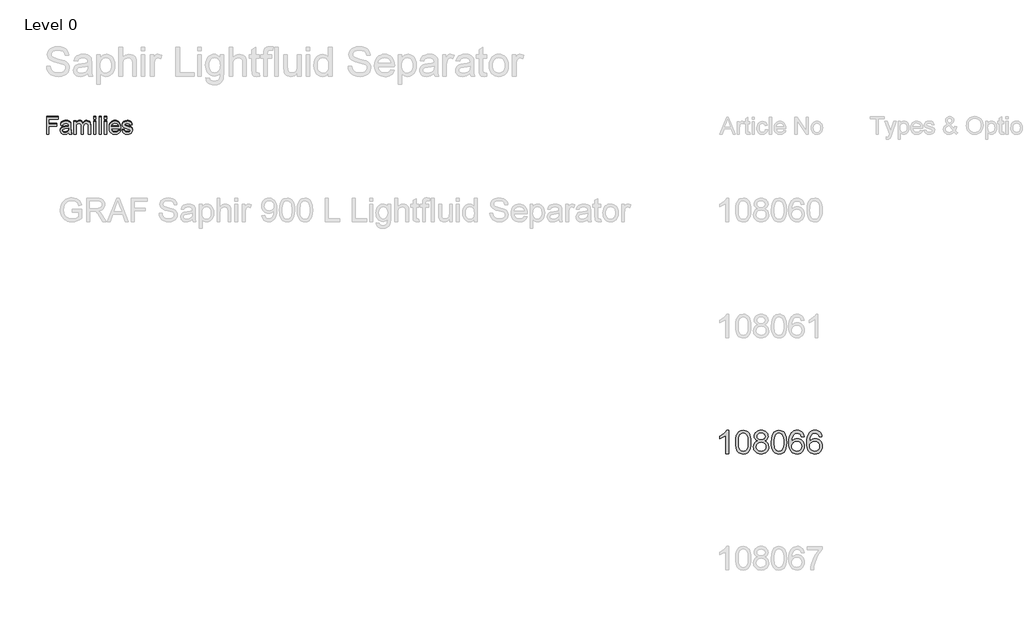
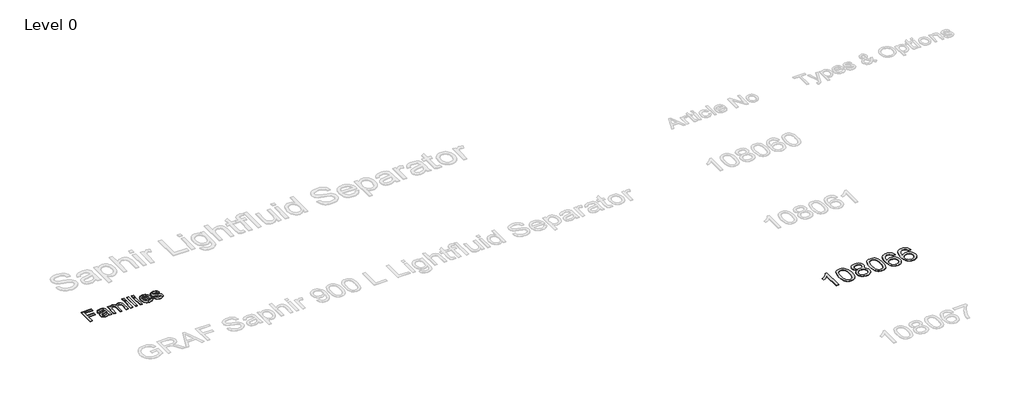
# One storey, part 5 of 9: 3 proxies.
"""IFC4 building model written with IfcOpenShell, lengths in millimetres."""

from ifc_helpers import new_model, si_unit, origin, origin_with_axes, place, context, project, spatial, polyline, outline, extrude, element, save

model = new_model("IFC4")

# Units and contexts
model_context = context("Model", 3, world=origin())
ifc_project = project(units=[si_unit("LENGTHUNIT", "METRE", prefix="MILLI")], contexts=[model_context])

# Site, building, storey
site = spatial("IfcSite", under=ifc_project)
building = spatial("IfcBuilding", under=site)
storey = spatial("IfcBuildingStorey", under=building, Name="Level 0", Elevation=0.0)

# Proxies
placement = place(None, origin())
element("IfcBuildingElementProxy", 1, Name="300mm Arial", ObjectType="300mm Arial", at=placement, inside=storey, context=model_context, shape_type="SweptSolid", body=[
    extrude(outline(polyline([(-15382.9152593, 11653.8274553), (-15382.9152593, 11949.2120707), (-15184.4537209, 11949.2120707), (-15184.4537209, 11912.2889938), (-15345.9921824, 11912.2889938), (-15345.9921824, 11824.5966861), (-15207.530644, 11824.5966861), (-15207.530644, 11787.6736092), (-15345.9921824, 11787.6736092), (-15345.9921824, 11653.8274553), (-15382.9152593, 11653.8274553)])), origin_with_axes(), (0.0, 0.0, 1.0), 10.0),
    extrude(outline(polyline([(-14999.8383363, 11681.519763), (-15017.4795622, 11666.3935611), (-15035.6436247, 11656.4957246), (-15054.7451872, 11651.0329842), (-15075.1989132, 11649.2120707), (-15106.0552834, 11653.5930803), (-15128.8167017, 11666.7361092), (-15142.8521584, 11686.6940419), (-15147.530644, 11711.519763), (-15145.763817, 11726.8262534), (-15140.4633363, 11740.7264938), (-15132.2872545, 11752.6255323), (-15121.8936247, 11761.9284169), (-15096.0402593, 11774.0438015), (-15064.093144, 11779.5966861), (-15026.3407401, 11785.4380323), (-15000.0546824, 11792.2889938), (-14999.8383363, 11800.5101476), (-15002.3804036, 11816.988513), (-15010.0066055, 11827.769763), (-15027.061894, 11835.7745707), (-15050.8239132, 11838.44284), (-15072.8191055, 11836.6669986), (-15088.1796824, 11831.3394746), (-15098.654442, 11821.4867101), (-15105.9921824, 11806.1351476), (-15142.9152593, 11810.7505323), (-15136.5060045, 11830.94284), (-15126.9417017, 11846.8082246), (-15113.3299228, 11858.941638), (-15094.7782401, 11867.9380323), (-15072.0889372, 11873.5089457), (-15046.0642978, 11875.3659169), (-15021.1033603, 11873.7252919), (-15001.3167017, 11868.8034169), (-14986.3978315, 11861.4025755), (-14976.0402593, 11852.3250515), (-14969.171269, 11841.1020948), (-14964.718144, 11827.2649553), (-14962.9152593, 11794.957263), (-14962.9152593, 11749.019763), (-14961.0402593, 11684.8731284), (-14953.6844901, 11653.8274553), (-14990.607567, 11653.8274553), (-14999.8383363, 11681.519763)]), holes=[polyline([(-14999.8383363, 11755.3659169), (-15059.405644, 11744.0438015), (-15091.1724709, 11738.0582246), (-15105.5594901, 11728.3226476), (-15110.607567, 11714.1159169), (-15107.858168, 11703.1363496), (-15099.6099709, 11694.1399553), (-15086.0432642, 11688.1363496), (-15067.3383363, 11686.1351476), (-15047.5066055, 11688.3436813), (-15029.982567, 11694.9692823), (-15015.7758363, 11704.7319025), (-15005.8960286, 11716.3514938), (-15001.515019, 11728.3226476), (-15000.0546824, 11744.9091861), (-14999.8383363, 11755.3659169)])]), origin_with_axes(), (0.0, 0.0, 1.0), 10.0),
    extrude(outline(polyline([(-14912.1460286, 11653.8274553), (-14912.1460286, 11870.7505323), (-14875.2229517, 11870.7505323), (-14875.2229517, 11835.0534169), (-14864.1171824, 11851.4506525), (-14849.8383363, 11864.2962053), (-14832.873192, 11872.598489), (-14813.7085286, 11875.3659169), (-14793.1736728, 11872.5444025), (-14776.7133363, 11864.0798592), (-14764.4176632, 11850.5311813), (-14756.3767978, 11832.457263), (-14742.9182642, 11851.2297991), (-14727.5667017, 11864.6387534), (-14710.3221103, 11872.684126), (-14691.1844901, 11875.3659169), (-14663.4290815, 11870.9037775), (-14642.9032401, 11857.5173592), (-14630.2199468, 11834.8460851), (-14625.9921824, 11802.5293784), (-14625.9921824, 11653.8274553), (-14662.9152593, 11653.8274553), (-14662.9152593, 11786.6639938), (-14666.3407401, 11817.4933207), (-14671.154442, 11825.9939217), (-14678.7445863, 11832.6736092), (-14688.5072065, 11837.0005323), (-14699.8383363, 11838.44284), (-14719.8413411, 11834.7469265), (-14736.1484324, 11823.6591861), (-14746.9927834, 11804.4224073), (-14750.607567, 11776.2793784), (-14750.607567, 11653.8274553), (-14787.530644, 11653.8274553), (-14787.530644, 11790.7745707), (-14789.6670622, 11811.6519746), (-14796.076317, 11826.5438015), (-14807.3533603, 11835.4680803), (-14824.093144, 11838.44284), (-14838.3179036, 11836.4596669), (-14851.4248747, 11830.5101476), (-14862.2421824, 11820.738513), (-14869.5979517, 11807.2889938), (-14873.8167017, 11788.629138), (-14875.2229517, 11763.2264938), (-14875.2229517, 11653.8274553), (-14912.1460286, 11653.8274553)])), origin_with_axes(), (0.0, 0.0, 1.0), 10.0),
    extrude(outline(polyline([(-14570.607567, 11912.2889938), (-14570.607567, 11949.2120707), (-14533.6844901, 11949.2120707), (-14533.6844901, 11912.2889938), (-14570.607567, 11912.2889938)])), origin_with_axes(), (0.0, 0.0, 1.0), 10.0),
    extrude(outline(polyline([(-14570.607567, 11653.8274553), (-14570.607567, 11870.7505323), (-14533.6844901, 11870.7505323), (-14533.6844901, 11653.8274553), (-14570.607567, 11653.8274553)])), origin_with_axes(), (0.0, 0.0, 1.0), 10.0),
    extrude(outline(polyline([(-14478.2998747, 11653.8274553), (-14478.2998747, 11949.2120707), (-14441.3767978, 11949.2120707), (-14441.3767978, 11653.8274553), (-14478.2998747, 11653.8274553)])), origin_with_axes(), (0.0, 0.0, 1.0), 10.0),
    extrude(outline(polyline([(-14385.9921824, 11912.2889938), (-14385.9921824, 11949.2120707), (-14349.0691055, 11949.2120707), (-14349.0691055, 11912.2889938), (-14385.9921824, 11912.2889938)])), origin_with_axes(), (0.0, 0.0, 1.0), 10.0),
    extrude(outline(polyline([(-14385.9921824, 11653.8274553), (-14385.9921824, 11870.7505323), (-14349.0691055, 11870.7505323), (-14349.0691055, 11653.8274553), (-14385.9921824, 11653.8274553)])), origin_with_axes(), (0.0, 0.0, 1.0), 10.0),
    extrude(outline(polyline([(-14141.8094901, 11718.44284), (-14105.607567, 11713.8274553), (-14118.6514372, 11686.5498111), (-14139.4657401, 11666.1591861), (-14167.5817257, 11653.4488496), (-14202.530644, 11649.2120707), (-14225.4408002, 11651.039745), (-14245.8539613, 11656.5227678), (-14263.7701271, 11665.6611392), (-14279.1892978, 11678.4548592), (-14291.5886367, 11694.547858), (-14300.4453074, 11713.5840659), (-14305.7593098, 11735.563483), (-14307.530644, 11760.4861092), (-14305.741281, 11786.2538375), (-14300.373192, 11808.9656765), (-14291.4263771, 11828.621626), (-14278.9008363, 11845.2216861), (-14263.5222305, 11858.4097871), (-14246.0162209, 11867.8298592), (-14226.3828074, 11873.4819025), (-14204.6219901, 11875.3659169), (-14183.5620442, 11873.4864097), (-14164.5168218, 11867.847888), (-14147.486323, 11858.450352), (-14132.4705478, 11845.2938015), (-14120.213186, 11828.7297991), (-14111.4579276, 11809.1099073), (-14106.2047726, 11786.434126), (-14104.4537209, 11760.7024553), (-14104.670067, 11750.7505323), (-14270.607567, 11750.7505323), (-14264.2163411, 11723.1123111), (-14249.3695863, 11702.7938015), (-14227.9423026, 11690.2998111), (-14201.8094901, 11686.1351476), (-14182.1580478, 11688.0642342), (-14165.607567, 11693.8514938), (-14152.1580478, 11703.8575034), (-14141.8094901, 11718.44284)]), holes=[polyline([(-14270.607567, 11787.6736092), (-14141.3767978, 11787.6736092), (-14146.3707882, 11807.1808207), (-14156.1604517, 11821.1351476), (-14177.686894, 11834.1159169), (-14204.7662209, 11838.44284), (-14229.655043, 11834.9903159), (-14250.2349709, 11824.6327438), (-14264.5408603, 11808.4879121), (-14270.607567, 11787.6736092)])]), origin_with_axes(), (0.0, 0.0, 1.0), 10.0),
    extrude(outline(polyline([(-14081.3767978, 11718.44284), (-14044.4537209, 11723.0582246), (-14038.6304036, 11707.2649553), (-14027.3623747, 11695.6543784), (-14010.577519, 11688.5149553), (-13988.2037209, 11686.1351476), (-13966.1003555, 11688.316638), (-13950.5594901, 11694.8611092), (-13941.3647786, 11704.3442823), (-13938.2998747, 11715.3418784), (-13941.3828074, 11724.7529361), (-13950.6316055, 11731.9284169), (-13988.6364132, 11742.457263), (-14044.2373747, 11760.5221669), (-14058.3088892, 11769.5996909), (-14068.5042017, 11781.6159169), (-14074.6971103, 11795.8046188), (-14076.7614132, 11811.3995707), (-14075.1027593, 11825.7054601), (-14070.1267978, 11838.91159), (-14062.2842497, 11850.4951236), (-14052.0258363, 11859.9332246), (-14028.5522786, 11870.8587053), (-13996.7854517, 11875.3659169), (-13972.7529997, 11873.5540178), (-13951.857567, 11868.1183207), (-13935.0546824, 11859.5906765), (-13923.2998747, 11848.5029361), (-13915.5114132, 11834.0347871), (-13910.607567, 11815.3659169), (-13947.530644, 11810.7505323), (-13952.1911007, 11822.3701236), (-13961.4128555, 11831.1231284), (-13975.2860526, 11836.6129121), (-13993.9008363, 11838.44284), (-14015.1027593, 11836.6940419), (-14029.2373747, 11831.4476476), (-14037.1880959, 11823.8755323), (-14039.8383363, 11815.1495707), (-14035.4392978, 11804.4043784), (-14021.6652593, 11796.25534), (-13989.8623747, 11788.394763), (-13935.6676632, 11771.0149553), (-13921.3527593, 11762.7036573), (-13910.499394, 11751.3274553), (-13903.6574468, 11736.8502919), (-13901.3767978, 11719.2361092), (-13904.0540815, 11701.0269746), (-13912.0859324, 11683.8995707), (-13925.1658603, 11669.1970467), (-13942.9873747, 11658.2625515), (-13964.513817, 11651.4746909), (-13988.7085286, 11649.2120707), (-14025.9380959, 11653.5750515), (-14053.107567, 11666.6639938), (-14071.2445863, 11688.3346669), (-14081.3767978, 11718.44284)])), origin_with_axes(), (0.0, 0.0, 1.0), 10.0),
])
element("IfcBuildingElementProxy", 2, Name="300mm Arial", ObjectType="300mm Arial", at=placement, inside=storey, context=model_context, shape_type="SweptSolid", body=[
    extrude(outline(polyline([(-15382.9152593, 11671.1260199), (-15382.9152593, 11966.5106353), (-15184.4537209, 11966.5106353), (-15184.4537209, 11929.5875583), (-15345.9921824, 11929.5875583), (-15345.9921824, 11841.8952506), (-15207.530644, 11841.8952506), (-15207.530644, 11804.9721737), (-15345.9921824, 11804.9721737), (-15345.9921824, 11671.1260199), (-15382.9152593, 11671.1260199)])), origin_with_axes(), (0.0, 0.0, 1.0), 5.0),
    extrude(outline(polyline([(-14999.8383363, 11698.8183276), (-15017.4795622, 11683.6921256), (-15035.6436247, 11673.7942891), (-15054.7451872, 11668.3315487), (-15075.1989132, 11666.5106353), (-15106.0552834, 11670.8916449), (-15128.8167017, 11684.0346737), (-15142.8521584, 11703.9926064), (-15147.530644, 11728.8183276), (-15145.763817, 11744.1248179), (-15140.4633363, 11758.0250583), (-15132.2872545, 11769.9240968), (-15121.8936247, 11779.2269814), (-15096.0402593, 11791.342366), (-15064.093144, 11796.8952506), (-15026.3407401, 11802.7365968), (-15000.0546824, 11809.5875583), (-14999.8383363, 11817.8087122), (-15002.3804036, 11834.2870776), (-15010.0066055, 11845.0683276), (-15027.061894, 11853.0731353), (-15050.8239132, 11855.7414045), (-15072.8191055, 11853.9655631), (-15088.1796824, 11848.6380391), (-15098.654442, 11838.7852747), (-15105.9921824, 11823.4337122), (-15142.9152593, 11828.0490968), (-15136.5060045, 11848.2414045), (-15126.9417017, 11864.1067891), (-15113.3299228, 11876.2402026), (-15094.7782401, 11885.2365968), (-15072.0889372, 11890.8075103), (-15046.0642978, 11892.6644814), (-15021.1033603, 11891.0238564), (-15001.3167017, 11886.1019814), (-14986.3978315, 11878.7011401), (-14976.0402593, 11869.623616), (-14969.171269, 11858.4006593), (-14964.718144, 11844.5635199), (-14962.9152593, 11812.2558276), (-14962.9152593, 11766.3183276), (-14961.0402593, 11702.1716929), (-14953.6844901, 11671.1260199), (-14990.607567, 11671.1260199), (-14999.8383363, 11698.8183276)]), holes=[polyline([(-14999.8383363, 11772.6644814), (-15059.405644, 11761.342366), (-15091.1724709, 11755.3567891), (-15105.5594901, 11745.6212122), (-15110.607567, 11731.4144814), (-15107.858168, 11720.4349141), (-15099.6099709, 11711.4385199), (-15086.0432642, 11705.4349141), (-15067.3383363, 11703.4337122), (-15047.5066055, 11705.6422458), (-15029.982567, 11712.2678468), (-15015.7758363, 11722.030467), (-15005.8960286, 11733.6500583), (-15001.515019, 11745.6212122), (-15000.0546824, 11762.2077506), (-14999.8383363, 11772.6644814)])]), origin_with_axes(), (0.0, 0.0, 1.0), 5.0),
    extrude(outline(polyline([(-14912.1460286, 11671.1260199), (-14912.1460286, 11888.0490968), (-14875.2229517, 11888.0490968), (-14875.2229517, 11852.3519814), (-14864.1171824, 11868.749217), (-14849.8383363, 11881.5947699), (-14832.873192, 11889.8970535), (-14813.7085286, 11892.6644814), (-14793.1736728, 11889.842967), (-14776.7133363, 11881.3784237), (-14764.4176632, 11867.8297458), (-14756.3767978, 11849.7558276), (-14742.9182642, 11868.5283636), (-14727.5667017, 11881.9373179), (-14710.3221103, 11889.9826905), (-14691.1844901, 11892.6644814), (-14663.4290815, 11888.202342), (-14642.9032401, 11874.8159237), (-14630.2199468, 11852.1446497), (-14625.9921824, 11819.8279429), (-14625.9921824, 11671.1260199), (-14662.9152593, 11671.1260199), (-14662.9152593, 11803.9625583), (-14666.3407401, 11834.7918853), (-14671.154442, 11843.2924862), (-14678.7445863, 11849.9721737), (-14688.5072065, 11854.2990968), (-14699.8383363, 11855.7414045), (-14719.8413411, 11852.045491), (-14736.1484324, 11840.9577506), (-14746.9927834, 11821.7209718), (-14750.607567, 11793.5779429), (-14750.607567, 11671.1260199), (-14787.530644, 11671.1260199), (-14787.530644, 11808.0731353), (-14789.6670622, 11828.9505391), (-14796.076317, 11843.842366), (-14807.3533603, 11852.7666449), (-14824.093144, 11855.7414045), (-14838.3179036, 11853.7582314), (-14851.4248747, 11847.8087122), (-14862.2421824, 11838.0370776), (-14869.5979517, 11824.5875583), (-14873.8167017, 11805.9277026), (-14875.2229517, 11780.5250583), (-14875.2229517, 11671.1260199), (-14912.1460286, 11671.1260199)])), origin_with_axes(), (0.0, 0.0, 1.0), 5.0),
    extrude(outline(polyline([(-14570.607567, 11929.5875583), (-14570.607567, 11966.5106353), (-14533.6844901, 11966.5106353), (-14533.6844901, 11929.5875583), (-14570.607567, 11929.5875583)])), origin_with_axes(), (0.0, 0.0, 1.0), 5.0),
    extrude(outline(polyline([(-14570.607567, 11671.1260199), (-14570.607567, 11888.0490968), (-14533.6844901, 11888.0490968), (-14533.6844901, 11671.1260199), (-14570.607567, 11671.1260199)])), origin_with_axes(), (0.0, 0.0, 1.0), 5.0),
    extrude(outline(polyline([(-14478.2998747, 11671.1260199), (-14478.2998747, 11966.5106353), (-14441.3767978, 11966.5106353), (-14441.3767978, 11671.1260199), (-14478.2998747, 11671.1260199)])), origin_with_axes(), (0.0, 0.0, 1.0), 5.0),
    extrude(outline(polyline([(-14385.9921824, 11929.5875583), (-14385.9921824, 11966.5106353), (-14349.0691055, 11966.5106353), (-14349.0691055, 11929.5875583), (-14385.9921824, 11929.5875583)])), origin_with_axes(), (0.0, 0.0, 1.0), 5.0),
    extrude(outline(polyline([(-14385.9921824, 11671.1260199), (-14385.9921824, 11888.0490968), (-14349.0691055, 11888.0490968), (-14349.0691055, 11671.1260199), (-14385.9921824, 11671.1260199)])), origin_with_axes(), (0.0, 0.0, 1.0), 5.0),
    extrude(outline(polyline([(-14141.8094901, 11735.7414045), (-14105.607567, 11731.1260199), (-14118.6514372, 11703.8483756), (-14139.4657401, 11683.4577506), (-14167.5817257, 11670.7474141), (-14202.530644, 11666.5106353), (-14225.4408002, 11668.3383095), (-14245.8539613, 11673.8213324), (-14263.7701271, 11682.9597038), (-14279.1892978, 11695.7534237), (-14291.5886367, 11711.8464225), (-14300.4453074, 11730.8826304), (-14305.7593098, 11752.8620475), (-14307.530644, 11777.7846737), (-14305.741281, 11803.5524021), (-14300.373192, 11826.264241), (-14291.4263771, 11845.9201905), (-14278.9008363, 11862.5202506), (-14263.5222305, 11875.7083516), (-14246.0162209, 11885.1284237), (-14226.3828074, 11890.780467), (-14204.6219901, 11892.6644814), (-14183.5620442, 11890.7849742), (-14164.5168218, 11885.1464526), (-14147.486323, 11875.7489165), (-14132.4705478, 11862.592366), (-14120.213186, 11846.0283636), (-14111.4579276, 11826.4084718), (-14106.2047726, 11803.7326905), (-14104.4537209, 11778.0010199), (-14104.670067, 11768.0490968), (-14270.607567, 11768.0490968), (-14264.2163411, 11740.4108756), (-14249.3695863, 11720.092366), (-14227.9423026, 11707.5983756), (-14201.8094901, 11703.4337122), (-14182.1580478, 11705.3627987), (-14165.607567, 11711.1500583), (-14152.1580478, 11721.1560679), (-14141.8094901, 11735.7414045)]), holes=[polyline([(-14270.607567, 11804.9721737), (-14141.3767978, 11804.9721737), (-14146.3707882, 11824.4793853), (-14156.1604517, 11838.4337122), (-14177.686894, 11851.4144814), (-14204.7662209, 11855.7414045), (-14229.655043, 11852.2888804), (-14250.2349709, 11841.9313083), (-14264.5408603, 11825.7864766), (-14270.607567, 11804.9721737)])]), origin_with_axes(), (0.0, 0.0, 1.0), 5.0),
    extrude(outline(polyline([(-14081.3767978, 11735.7414045), (-14044.4537209, 11740.3567891), (-14038.6304036, 11724.5635199), (-14027.3623747, 11712.9529429), (-14010.577519, 11705.8135199), (-13988.2037209, 11703.4337122), (-13966.1003555, 11705.6152026), (-13950.5594901, 11712.1596737), (-13941.3647786, 11721.6428468), (-13938.2998747, 11732.6404429), (-13941.3828074, 11742.0515006), (-13950.6316055, 11749.2269814), (-13988.6364132, 11759.7558276), (-14044.2373747, 11777.8207314), (-14058.3088892, 11786.8982554), (-14068.5042017, 11798.9144814), (-14074.6971103, 11813.1031833), (-14076.7614132, 11828.6981353), (-14075.1027593, 11843.0040247), (-14070.1267978, 11856.2101545), (-14062.2842497, 11867.7936881), (-14052.0258363, 11877.2317891), (-14028.5522786, 11888.1572699), (-13996.7854517, 11892.6644814), (-13972.7529997, 11890.8525824), (-13951.857567, 11885.4168853), (-13935.0546824, 11876.889241), (-13923.2998747, 11865.8015006), (-13915.5114132, 11851.3333516), (-13910.607567, 11832.6644814), (-13947.530644, 11828.0490968), (-13952.1911007, 11839.6686881), (-13961.4128555, 11848.4216929), (-13975.2860526, 11853.9114766), (-13993.9008363, 11855.7414045), (-14015.1027593, 11853.9926064), (-14029.2373747, 11848.7462122), (-14037.1880959, 11841.1740968), (-14039.8383363, 11832.4481353), (-14035.4392978, 11821.7029429), (-14021.6652593, 11813.5539045), (-13989.8623747, 11805.6933276), (-13935.6676632, 11788.3135199), (-13921.3527593, 11780.0022218), (-13910.499394, 11768.6260199), (-13903.6574468, 11754.1488564), (-13901.3767978, 11736.5346737), (-13904.0540815, 11718.3255391), (-13912.0859324, 11701.1981353), (-13925.1658603, 11686.4956112), (-13942.9873747, 11675.561116), (-13964.513817, 11668.7732554), (-13988.7085286, 11666.5106353), (-14025.9380959, 11670.873616), (-14053.107567, 11683.9625583), (-14071.2445863, 11705.6332314), (-14081.3767978, 11735.7414045)])), origin_with_axes(), (0.0, 0.0, 1.0), 5.0),
])
element("IfcBuildingElementProxy", 3, Name="400mm Arial", ObjectType="400mm Arial", at=placement, inside=storey, context=model_context, shape_type="SweptSolid", body=[
    extrude(outline(polyline([(-3629.592891, 6149.0232018), (-3679.821046, 6149.0232018), (-3679.821046, 6462.1643561), (-3700.7903198, 6445.2049961), (-3727.4004508, 6428.2701616), (-3780.2773562, 6402.9108294), (-3780.2773562, 6450.3921323), (-3740.8281436, 6471.8519153), (-3706.6519062, 6497.3829258), (-3679.7106814, 6524.532617), (-3661.9665065, 6550.8484424), (-3629.592891, 6550.8484424), (-3629.592891, 6149.0232018)])), origin_with_axes(), (0.0, 0.0, 1.0), 5.0),
    extrude(outline(polyline([(-3510.3010227, 6346.6984606), (-3506.60994, 6411.0164961), (-3495.5366919, 6462.3115089), (-3477.1916431, 6501.3683141), (-3465.3335801, 6516.6016944), (-3451.6851581, 6528.9717264), (-3436.2003918, 6538.5427897), (-3418.8332959, 6545.3792634), (-3378.4521156, 6550.8484424), (-3347.5009771, 6547.6110809), (-3319.7872001, 6537.8989962), (-3296.6106344, 6522.0923331), (-3279.2711297, 6500.5712364), (-3266.1745307, 6473.519647), (-3255.726682, 6441.121506), (-3248.8840769, 6399.9800362), (-3246.6032085, 6346.6984606), (-3250.257503, 6282.7483071), (-3261.2203865, 6231.5759215), (-3279.4550707, 6192.4823282), (-3291.2855425, 6177.2029627), (-3304.9247675, 6164.7685512), (-3320.4279279, 6155.1331086), (-3337.8502061, 6148.2506496), (-3378.4521156, 6142.7446824), (-3406.1168416, 6145.1359154), (-3430.642308, 6152.3096143), (-3452.0285146, 6164.2657792), (-3470.2754616, 6181.0044099), (-3487.7866446, 6211.262704), (-3500.2946324, 6248.9644772), (-3507.7994251, 6294.1097294), (-3510.3010227, 6346.6984606)]), holes=[polyline([(-3460.0728676, 6346.7965624), (-3458.6013396, 6303.1320353), (-3454.1867557, 6267.7877726), (-3446.8291158, 6240.7637744), (-3436.5284199, 6222.0600406), (-3424.069483, 6209.3343892), (-3410.23712, 6200.2446383), (-3395.0313308, 6194.7907877), (-3378.4521156, 6192.9728375), (-3361.8729003, 6194.7969191), (-3346.6671112, 6200.2691637), (-3332.8347482, 6209.3895715), (-3320.3758113, 6222.1581425), (-3310.0751154, 6240.8925331), (-3302.7174755, 6267.9103999), (-3298.3028916, 6303.2117431), (-3296.8313636, 6346.7965624), (-3298.2538406, 6389.305327), (-3302.5212718, 6424.0272559), (-3309.633657, 6450.9623494), (-3319.5909964, 6470.1106072), (-3331.8414668, 6483.4585923), (-3345.8332454, 6492.9928673), (-3361.566332, 6498.7134323), (-3379.0407268, 6500.6202873), (-3395.5341029, 6498.9402929), (-3410.4823746, 6493.9003096), (-3423.885542, 6485.5003373), (-3435.743605, 6473.7403762), (-3446.3876574, 6452.8937298), (-3453.9905519, 6424.7875454), (-3458.5522887, 6389.4218229), (-3460.0728676, 6346.7965624)])]), origin_with_axes(), (0.0, 0.0, 1.0), 5.0),
    extrude(outline(polyline([(-3129.4695813, 6370.3410101), (-3156.3617551, 6383.5847619), (-3175.2341015, 6401.5374033), (-3186.3809259, 6423.8310522), (-3190.0965341, 6450.0978267), (-3188.0731831, 6470.5827224), (-3182.0031302, 6489.3630983), (-3171.8863753, 6506.4389542), (-3157.7229185, 6521.8102903), (-3140.1933414, 6534.5144818), (-3119.9782258, 6543.5889044), (-3097.0775716, 6549.0335579), (-3071.4913788, 6550.8484424), (-3045.7825587, 6548.9906383), (-3022.7102263, 6543.4172261), (-3002.2743814, 6534.1282057), (-2984.4750242, 6521.1235772), (-2970.05405, 6505.4518042), (-2959.7533542, 6488.1613504), (-2953.5729366, 6469.2522159), (-2951.5127975, 6448.7244006), (-2955.1793547, 6423.3037547), (-2966.1790263, 6401.3902505), (-2984.6344398, 6383.5479737), (-3010.6682223, 6370.3410101), (-2979.753872, 6354.4117197), (-2957.2517566, 6330.9531112), (-2943.5297582, 6301.0933559), (-2938.9557587, 6265.9606254), (-2941.2243643, 6240.9078615), (-2948.0301812, 6217.9397623), (-2959.3732094, 6197.0563277), (-2975.2534489, 6178.2575577), (-2994.8370338, 6162.7206748), (-3017.2900982, 6151.6229013), (-3042.6126422, 6144.9642371), (-3070.8046658, 6142.7446824), (-3098.9966893, 6144.9734342), (-3124.3192333, 6151.6596895), (-3146.7722978, 6162.8034482), (-3166.3558826, 6178.4047105), (-3182.2361221, 6197.3353048), (-3193.5791503, 6218.4670598), (-3200.3849672, 6241.7999753), (-3202.6535728, 6267.3340515), (-3197.8956324, 6303.8279454), (-3183.621811, 6333.8471162), (-3160.5678726, 6356.3614943), (-3129.4695813, 6370.3410101)]), holes=[polyline([(-3139.868379, 6448.6262987), (-3135.4170068, 6426.7005318), (-3122.0628904, 6409.1893488), (-3100.1984372, 6397.7114306), (-3070.2160546, 6393.8854578), (-3040.9326478, 6397.6869051), (-3019.3992883, 6409.0912469), (-3006.1555365, 6426.0138187), (-3001.7409525, 6446.3699558), (-3006.3026893, 6467.498645), (-3019.9878995, 6484.9730398), (-3041.8155645, 6496.7084755), (-3070.8046658, 6500.6202873), (-3099.977708, 6496.7943146), (-3121.7685848, 6485.3163963), (-3135.3434305, 6468.4919264), (-3139.868379, 6448.6262987)]), polyline([(-3152.4254178, 6269.099885), (-3150.3284904, 6249.8841822), (-3144.0377083, 6231.2816159), (-3132.4249, 6215.05802), (-3114.361894, 6202.9792278), (-3092.7304327, 6195.4744351), (-3070.4122583, 6192.9728375), (-3036.2237582, 6198.23355), (-3022.3300815, 6204.8094407), (-3010.5701204, 6214.0156876), (-2994.5304654, 6237.9157546), (-2989.1839138, 6267.5302552), (-2994.7021437, 6297.6475279), (-3011.2568335, 6322.0748924), (-3023.3356257, 6331.5171969), (-3037.4990825, 6338.2617001), (-3072.07999, 6343.6573027), (-3105.7902435, 6338.3352765), (-3119.5275703, 6331.6827438), (-3131.1863639, 6322.3691979), (-3147.1156543, 6298.4078173), (-3152.4254178, 6269.099885)])]), origin_with_axes(), (0.0, 0.0, 1.0), 5.0),
    extrude(outline(polyline([(-2895.006123, 6346.6984606), (-2891.3150403, 6411.0164961), (-2880.2417923, 6462.3115089), (-2861.8967434, 6501.3683141), (-2850.0386805, 6516.6016944), (-2836.3902584, 6528.9717264), (-2820.9054921, 6538.5427897), (-2803.5383963, 6545.3792634), (-2763.1572159, 6550.8484424), (-2732.2060774, 6547.6110809), (-2704.4923004, 6537.8989962), (-2681.3157347, 6522.0923331), (-2663.97623, 6500.5712364), (-2650.879631, 6473.519647), (-2640.4317823, 6441.121506), (-2633.5891772, 6399.9800362), (-2631.3083089, 6346.6984606), (-2634.9626033, 6282.7483071), (-2645.9254868, 6231.5759215), (-2664.160171, 6192.4823282), (-2675.9906429, 6177.2029627), (-2689.6298678, 6164.7685512), (-2705.1330282, 6155.1331086), (-2722.5553064, 6148.2506496), (-2763.1572159, 6142.7446824), (-2790.821942, 6145.1359154), (-2815.3474083, 6152.3096143), (-2836.733615, 6164.2657792), (-2854.9805619, 6181.0044099), (-2872.4917449, 6211.262704), (-2884.9997327, 6248.9644772), (-2892.5045254, 6294.1097294), (-2895.006123, 6346.6984606)]), holes=[polyline([(-2844.7779679, 6346.7965624), (-2843.3064399, 6303.1320353), (-2838.891856, 6267.7877726), (-2831.5342161, 6240.7637744), (-2821.2335202, 6222.0600406), (-2808.7745833, 6209.3343892), (-2794.9422203, 6200.2446383), (-2779.7364312, 6194.7907877), (-2763.1572159, 6192.9728375), (-2746.5780007, 6194.7969191), (-2731.3722115, 6200.2691637), (-2717.5398485, 6209.3895715), (-2705.0809116, 6222.1581425), (-2694.7802158, 6240.8925331), (-2687.4225759, 6267.9103999), (-2683.0079919, 6303.2117431), (-2681.5364639, 6346.7965624), (-2682.958941, 6389.305327), (-2687.2263721, 6424.0272559), (-2694.3387574, 6450.9623494), (-2704.2960967, 6470.1106072), (-2716.5465671, 6483.4585923), (-2730.5383457, 6492.9928673), (-2746.2714324, 6498.7134323), (-2763.7458271, 6500.6202873), (-2780.2392032, 6498.9402929), (-2795.187475, 6493.9003096), (-2808.5906423, 6485.5003373), (-2820.4487053, 6473.7403762), (-2831.0927577, 6452.8937298), (-2838.6956523, 6424.7875454), (-2843.257389, 6389.4218229), (-2844.7779679, 6346.7965624)])]), origin_with_axes(), (0.0, 0.0, 1.0), 5.0),
    extrude(outline(polyline([(-2329.9393784, 6444.1136129), (-2380.1675335, 6437.8350935), (-2388.2609374, 6462.7284418), (-2399.1992954, 6479.72459), (-2421.9834536, 6495.396363), (-2449.5255523, 6500.6202873), (-2472.8737963, 6497.5791295), (-2494.8486141, 6488.455656), (-2513.7209605, 6469.2399532), (-2529.1352161, 6442.7892377), (-2539.5462765, 6405.3756388), (-2543.4090375, 6353.2712855), (-2523.2613669, 6376.778945), (-2499.1160453, 6393.3458976), (-2472.3219733, 6403.1683468), (-2444.2280516, 6406.4424966), (-2420.0949927, 6404.2045478), (-2397.8258693, 6397.4907014), (-2377.4206813, 6386.3009573), (-2358.8794287, 6370.6353157), (-2343.4713045, 6351.4257442), (-2332.4655014, 6329.6042105), (-2325.8620196, 6305.1707147), (-2323.660859, 6278.1252567), (-2327.8056628, 6242.1586603), (-2340.2400743, 6208.8162888), (-2359.9340238, 6180.5384261), (-2385.8574417, 6159.7653561), (-2416.8331057, 6146.9998508), (-2451.6837933, 6142.7446824), (-2481.6263221, 6145.5651111), (-2508.6687144, 6154.026397), (-2532.8109703, 6168.1285401), (-2554.0530899, 6187.8715405), (-2571.3711348, 6214.089264), (-2583.7411669, 6247.6155765), (-2591.1631861, 6288.450478), (-2593.6371926, 6336.5939684), (-2590.8903403, 6390.5683885), (-2582.6497836, 6436.6333457), (-2568.9155225, 6474.7888399), (-2549.6875569, 6505.0348713), (-2528.8470418, 6525.0783087), (-2504.6833261, 6539.3950496), (-2477.1964097, 6547.9850942), (-2446.3862926, 6550.8484424), (-2423.2526465, 6549.0764775), (-2402.3140296, 6543.7605826), (-2383.5704419, 6534.9007579), (-2367.0218835, 6522.4970033), (-2353.1159441, 6506.9662518), (-2342.3002134, 6488.7254362), (-2334.5746915, 6467.7745565), (-2329.9393784, 6444.1136129)]), holes=[polyline([(-2543.4090375, 6278.9100716), (-2540.5027697, 6256.6532109), (-2531.7839664, 6235.4018943), (-2518.245909, 6217.1304219), (-2500.8818788, 6203.8130936), (-2479.9248678, 6195.6829015), (-2455.607868, 6192.9728375), (-2422.4617002, 6198.5891693), (-2408.5465637, 6205.609584), (-2396.4033922, 6215.4381647), (-2386.5533518, 6227.6763724), (-2379.5176086, 6241.9256683), (-2373.8890141, 6276.457525), (-2379.4440322, 6309.6036927), (-2386.3878049, 6323.2245236), (-2396.1090866, 6334.8771858), (-2408.2890463, 6344.2121914), (-2422.608853, 6350.8800526), (-2457.6680071, 6356.2143415), (-2490.765124, 6350.8800526), (-2518.4421127, 6334.8771858), (-2529.3651423, 6323.3778078), (-2537.1673063, 6310.2168294), (-2541.8486047, 6295.3942507), (-2543.4090375, 6278.9100716)])]), origin_with_axes(), (0.0, 0.0, 1.0), 5.0),
    extrude(outline(polyline([(-2022.2919286, 6444.1136129), (-2072.5200837, 6437.8350935), (-2080.6134875, 6462.7284418), (-2091.5518455, 6479.72459), (-2114.3360038, 6495.396363), (-2141.8781025, 6500.6202873), (-2165.2263464, 6497.5791295), (-2187.2011643, 6488.455656), (-2206.0735106, 6469.2399532), (-2221.4877662, 6442.7892377), (-2231.8988267, 6405.3756388), (-2235.7615876, 6353.2712855), (-2215.613917, 6376.778945), (-2191.4685954, 6393.3458976), (-2164.6745234, 6403.1683468), (-2136.5806017, 6406.4424966), (-2112.4475429, 6404.2045478), (-2090.1784194, 6397.4907014), (-2069.7732314, 6386.3009573), (-2051.2319789, 6370.6353157), (-2035.8238546, 6351.4257442), (-2024.8180516, 6329.6042105), (-2018.2145698, 6305.1707147), (-2016.0134092, 6278.1252567), (-2020.158213, 6242.1586603), (-2032.5926244, 6208.8162888), (-2052.2865739, 6180.5384261), (-2078.2099918, 6159.7653561), (-2109.1856558, 6146.9998508), (-2144.0363435, 6142.7446824), (-2173.9788722, 6145.5651111), (-2201.0212646, 6154.026397), (-2225.1635205, 6168.1285401), (-2246.40564, 6187.8715405), (-2263.723685, 6214.089264), (-2276.093717, 6247.6155765), (-2283.5157363, 6288.450478), (-2285.9897427, 6336.5939684), (-2283.2428905, 6390.5683885), (-2275.0023338, 6436.6333457), (-2261.2680726, 6474.7888399), (-2242.040107, 6505.0348713), (-2221.199592, 6525.0783087), (-2197.0358763, 6539.3950496), (-2169.5489599, 6547.9850942), (-2138.7388428, 6550.8484424), (-2115.6051967, 6549.0764775), (-2094.6665798, 6543.7605826), (-2075.9229921, 6534.9007579), (-2059.3744337, 6522.4970033), (-2045.4684943, 6506.9662518), (-2034.6527636, 6488.7254362), (-2026.9272417, 6467.7745565), (-2022.2919286, 6444.1136129)]), holes=[polyline([(-2235.7615876, 6278.9100716), (-2232.8553199, 6256.6532109), (-2224.1365166, 6235.4018943), (-2210.5984592, 6217.1304219), (-2193.234429, 6203.8130936), (-2172.277418, 6195.6829015), (-2147.9604181, 6192.9728375), (-2114.8142504, 6198.5891693), (-2100.8991139, 6205.609584), (-2088.7559424, 6215.4381647), (-2078.905902, 6227.6763724), (-2071.8701588, 6241.9256683), (-2066.2415643, 6276.457525), (-2071.7965824, 6309.6036927), (-2078.7403551, 6323.2245236), (-2088.4616368, 6334.8771858), (-2100.6415965, 6344.2121914), (-2114.9614032, 6350.8800526), (-2150.0205573, 6356.2143415), (-2183.1176741, 6350.8800526), (-2210.7946629, 6334.8771858), (-2221.7176925, 6323.3778078), (-2229.5198565, 6310.2168294), (-2234.2011548, 6295.3942507), (-2235.7615876, 6278.9100716)])]), origin_with_axes(), (0.0, 0.0, 1.0), 5.0),
])

save(model, "model.ifc")
